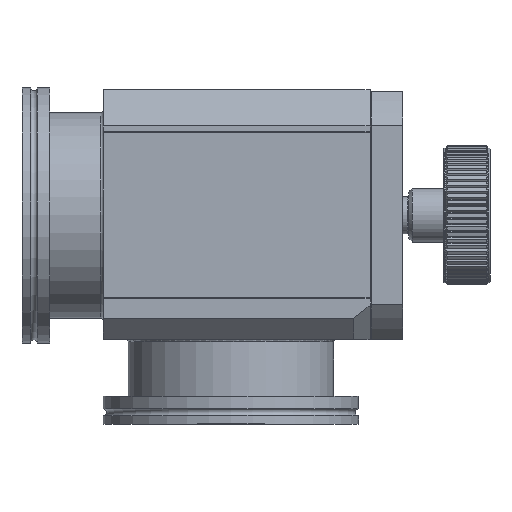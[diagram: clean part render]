
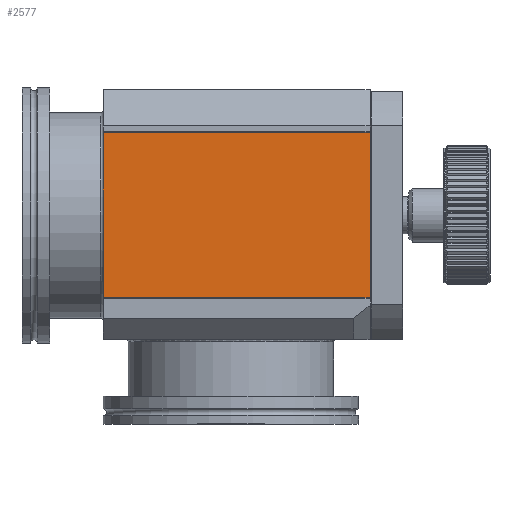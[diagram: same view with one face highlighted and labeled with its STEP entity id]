
A CAD part, top view. The second image highlights one B-rep face of the part: STEP entity #2577.
In plain terms, the highlighted planar face has unit normal (0, 0, 1) as drawn and (-1, 0, 0) by its records, which use the part's own axes.
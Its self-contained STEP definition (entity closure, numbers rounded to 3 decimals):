
#1763=FACE_OUTER_BOUND('',#4483,.T.);
#2577=ADVANCED_FACE('',(#1763),#2918,.F.);
#2918=PLANE('',#10165);
#3231=LINE('',#15593,#3615);
#3233=LINE('',#15597,#3617);
#3234=LINE('',#15599,#3618);
#3235=LINE('',#15601,#3619);
#3615=VECTOR('',#12171,1.);
#3617=VECTOR('',#12175,1.);
#3618=VECTOR('',#12176,1.);
#3619=VECTOR('',#12177,1.);
#4483=EDGE_LOOP('',(#6397,#6398,#6399,#6400));
#6397=ORIENTED_EDGE('',*,*,#8649,.T.);
#6398=ORIENTED_EDGE('',*,*,#8651,.T.);
#6399=ORIENTED_EDGE('',*,*,#8652,.F.);
#6400=ORIENTED_EDGE('',*,*,#8653,.F.);
#7572=VERTEX_POINT('',#15592);
#7573=VERTEX_POINT('',#15594);
#7574=VERTEX_POINT('',#15598);
#7575=VERTEX_POINT('',#15600);
#8649=EDGE_CURVE('',#7573,#7572,#3231,.T.);
#8651=EDGE_CURVE('',#7572,#7574,#3233,.T.);
#8652=EDGE_CURVE('',#7575,#7574,#3234,.T.);
#8653=EDGE_CURVE('',#7573,#7575,#3235,.T.);
#10165=AXIS2_PLACEMENT_3D('',#15602,#12178,#12179);
#12171=DIRECTION('',(0.,-1.,0.));
#12175=DIRECTION('',(0.,0.,1.));
#12176=DIRECTION('',(0.,-1.,0.));
#12177=DIRECTION('',(0.,0.,1.));
#12178=DIRECTION('',(1.,0.,0.));
#12179=DIRECTION('',(0.,0.,-1.));
#15592=CARTESIAN_POINT('',(-53.5,3.05,-35.5));
#15593=CARTESIAN_POINT('',(-53.5,153.,-35.5));
#15594=CARTESIAN_POINT('',(-53.5,118.,-35.5));
#15597=CARTESIAN_POINT('',(-53.5,3.05,-39.));
#15598=CARTESIAN_POINT('',(-53.5,3.05,35.5));
#15599=CARTESIAN_POINT('',(-53.5,153.,35.5));
#15600=CARTESIAN_POINT('',(-53.5,118.,35.5));
#15601=CARTESIAN_POINT('',(-53.5,118.,-39.));
#15602=CARTESIAN_POINT('',(-53.5,153.,-39.));
